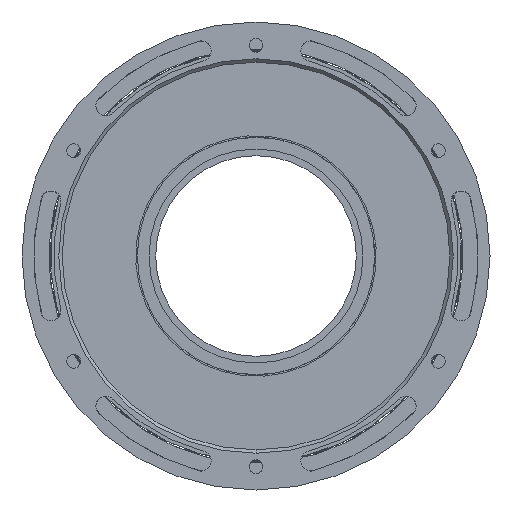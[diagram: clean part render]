
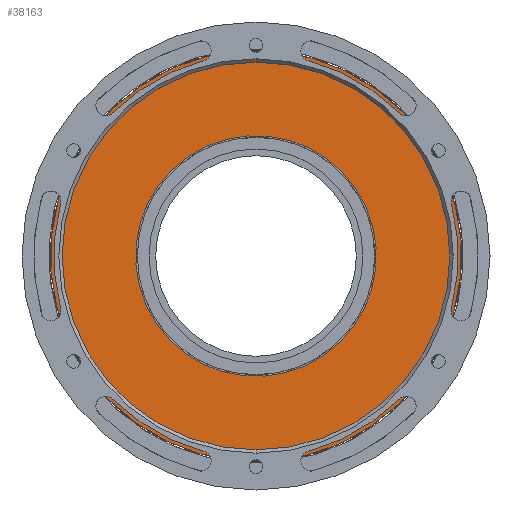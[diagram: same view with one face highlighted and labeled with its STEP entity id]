
A CAD part, front view. The second image highlights one B-rep face of the part: STEP entity #38163.
In plain terms, the highlighted planar face has unit normal (0, -1, 0).
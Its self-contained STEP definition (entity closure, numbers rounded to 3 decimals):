
#363 = CARTESIAN_POINT ( 'NONE',  ( 0., 0., 18. ) ) ;
#1484 = CARTESIAN_POINT ( 'NONE',  ( 0., 0., 0. ) ) ;
#2109 = DIRECTION ( 'NONE',  ( 0., 0., 1. ) ) ;
#2706 = DIRECTION ( 'NONE',  ( 0., 0., 1. ) ) ;
#3087 = CARTESIAN_POINT ( 'NONE',  ( 0., 0., 0. ) ) ;
#3187 = PLANE ( 'NONE',  #24093 ) ;
#3573 = DIRECTION ( 'NONE',  ( 0., 0., 1. ) ) ;
#5912 = EDGE_LOOP ( 'NONE', ( #18773, #40699 ) ) ;
#7560 = VERTEX_POINT ( 'NONE', #24896 ) ;
#8382 = VERTEX_POINT ( 'NONE', #21340 ) ;
#8773 = CIRCLE ( 'NONE', #41266, 18. ) ;
#10500 = EDGE_CURVE ( 'NONE', #7560, #22963, #46246, .T. ) ;
#12914 = EDGE_LOOP ( 'NONE', ( #36783, #44615 ) ) ;
#12994 = DIRECTION ( 'NONE',  ( 0., 1., 0. ) ) ;
#14037 = CIRCLE ( 'NONE', #15600, 30.75 ) ;
#14084 = AXIS2_PLACEMENT_3D ( 'NONE', #46430, #12994, #2109 ) ;
#14165 = CARTESIAN_POINT ( 'NONE',  ( 0., 0., -30.75 ) ) ;
#14530 = AXIS2_PLACEMENT_3D ( 'NONE', #3087, #44256, #3573 ) ;
#15600 = AXIS2_PLACEMENT_3D ( 'NONE', #26217, #44882, #34205 ) ;
#18773 = ORIENTED_EDGE ( 'NONE', *, *, #37841, .F. ) ;
#21250 = VERTEX_POINT ( 'NONE', #363 ) ;
#21340 = CARTESIAN_POINT ( 'NONE',  ( 0., 0., -18. ) ) ;
#22963 = VERTEX_POINT ( 'NONE', #14165 ) ;
#24093 = AXIS2_PLACEMENT_3D ( 'NONE', #39258, #28592, #2706 ) ;
#24483 = FACE_BOUND ( 'NONE', #12914, .T. ) ;
#24896 = CARTESIAN_POINT ( 'NONE',  ( 0., 0., 30.75 ) ) ;
#26217 = CARTESIAN_POINT ( 'NONE',  ( 0., 0., 0. ) ) ;
#28592 = DIRECTION ( 'NONE',  ( 0., 1., 0. ) ) ;
#33934 = DIRECTION ( 'NONE',  ( 0., 1., 0. ) ) ;
#34205 = DIRECTION ( 'NONE',  ( 0., 0., 1. ) ) ;
#34948 = CIRCLE ( 'NONE', #14084, 18. ) ;
#36783 = ORIENTED_EDGE ( 'NONE', *, *, #38455, .T. ) ;
#37841 = EDGE_CURVE ( 'NONE', #22963, #7560, #14037, .T. ) ;
#38163 = ADVANCED_FACE ( 'NONE', ( #47025, #24483 ), #3187, .F. ) ;
#38455 = EDGE_CURVE ( 'NONE', #8382, #21250, #34948, .T. ) ;
#39258 = CARTESIAN_POINT ( 'NONE',  ( 0., 0., 0. ) ) ;
#40699 = ORIENTED_EDGE ( 'NONE', *, *, #10500, .F. ) ;
#41266 = AXIS2_PLACEMENT_3D ( 'NONE', #1484, #33934, #41680 ) ;
#41680 = DIRECTION ( 'NONE',  ( 0., 0., 1. ) ) ;
#44256 = DIRECTION ( 'NONE',  ( 0., 1., 0. ) ) ;
#44615 = ORIENTED_EDGE ( 'NONE', *, *, #47444, .T. ) ;
#44882 = DIRECTION ( 'NONE',  ( 0., 1., 0. ) ) ;
#46246 = CIRCLE ( 'NONE', #14530, 30.75 ) ;
#46430 = CARTESIAN_POINT ( 'NONE',  ( 0., 0., 0. ) ) ;
#47025 = FACE_OUTER_BOUND ( 'NONE', #5912, .T. ) ;
#47444 = EDGE_CURVE ( 'NONE', #21250, #8382, #8773, .T. ) ;
